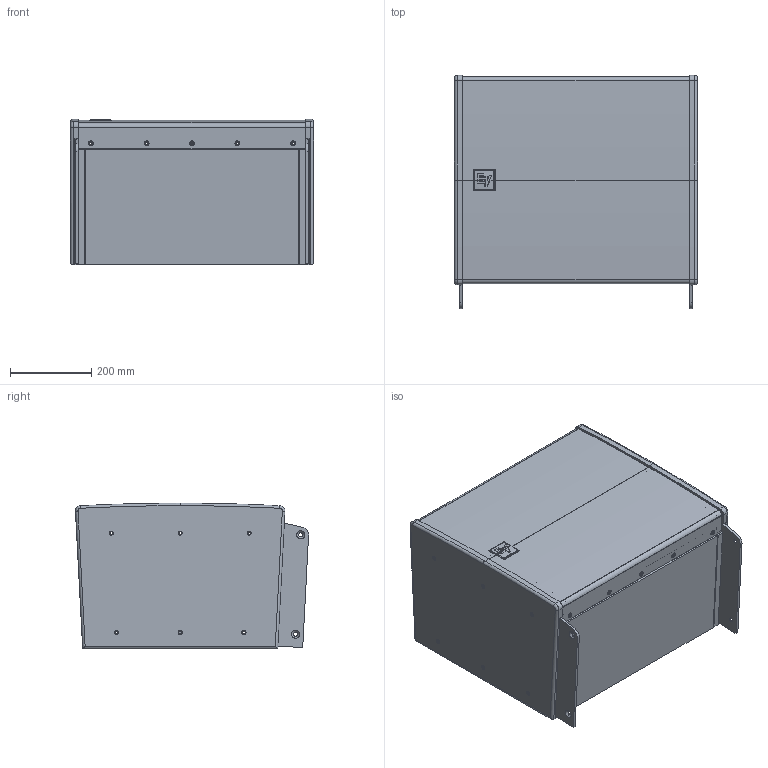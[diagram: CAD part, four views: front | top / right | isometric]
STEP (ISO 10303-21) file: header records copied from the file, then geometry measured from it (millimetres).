
FILE_DESCRIPTION (( 'STEP AP214' ), '1' );
FILE_NAME ('EVA-2082S-126 Middle Element With Extended Grid 3D CAD.STEP', '2023-03-14T05:32:30', ( '' ), ( '' ), 'SwSTEP 2.0', 'SolidWorks 2021', '' );
FILE_SCHEMA (( 'AUTOMOTIVE_DESIGN' ));
Length unit declared in the file: millimetre
Products named in the file (11): EVA-2082S-126 Extended Grid; EVA-2082S-126 Grille; EVA-2082S-126 Middle Element With Extended Grid 3D CAD; EVA-2082S-126 Back Plate; EVA-2082S-126 Side Plate; EVA-2082S-126 Top And Bottom Plate; EVA-2082S-126 Enclosure Assembly; EVA-2082S-126 EV Logo; EVA-2082S-126 Cover Plate; EVA-2082S-126 Rear Panel
Assembly tree (13 placements, depth 3):
  EVA-2082S-126 Middle Element With Extended Grid 3D CAD
    EVA-2082S-126 Enclosure Assembly
      EVA-2082S-126 Back Plate
      EVA-2082S-126 Side Plate
      EVA-2082S-126 Side Plate
      EVA-2082S-126 Top And Bottom Plate  x2
    EVA-2082S-126 Grille
    EVA-2082S-126 EV Logo
    EVA-2082S-126 Rear Panel
    EVA-2082S-126 Extended Grid  x2
    EVA-2082S-126 Cover Plate  x2
Bounding box: 596.9 x 572.5 x 358.46 mm (x, y, z)
Volume: 22932350.4 mm3; surface area: 3782753.3 mm2
Topology: 12 solids, 12 shells, 833 faces, 2136 edges, 1353 vertices
Faces by surface type: plane 292, cylinder 256, bspline 129, cone 108, torus 48
Entity records: 26168 total; most frequent: CARTESIAN_POINT 8713, ORIENTED_EDGE 3650, DIRECTION 3368, EDGE_CURVE 1825, AXIS2_PLACEMENT_3D 1241, VERTEX_POINT 1156, VECTOR 886, LINE 886
